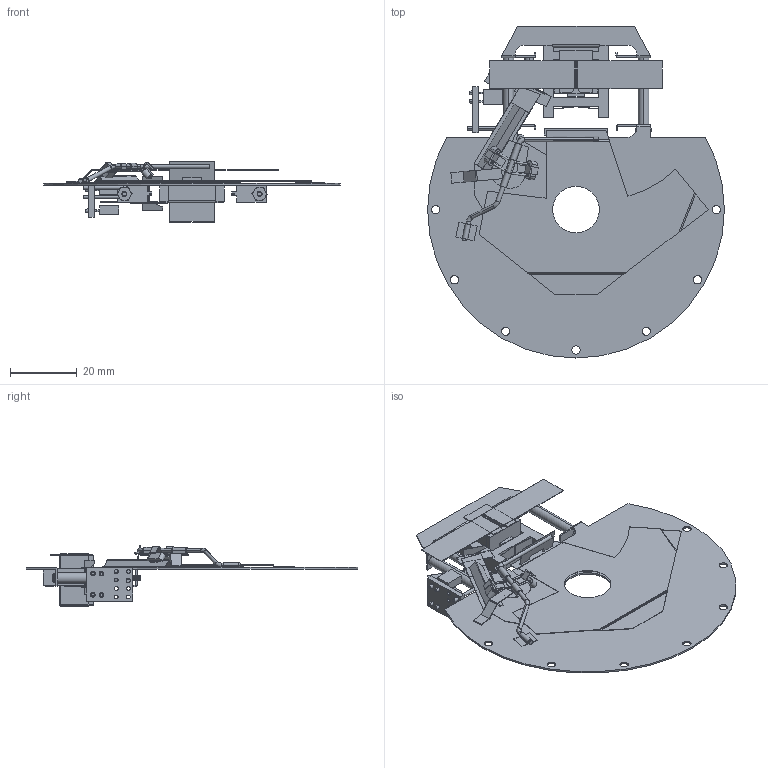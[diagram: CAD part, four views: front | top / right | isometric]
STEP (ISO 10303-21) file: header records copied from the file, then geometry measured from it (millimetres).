
FILE_DESCRIPTION (( 'STEP AP214' ), '1' );
FILE_NAME ('NO XRS14 3D Model Un-Housed.STEP', '2013-12-30T18:18:30', ( 'helen' ), ( 'Microsoft' ), 'SwSTEP 2.0', 'SolidWorks 2010', '' );
FILE_SCHEMA (( 'AUTOMOTIVE_DESIGN' ));
Length unit declared in the file: inch
Products named in the file (1): NO XRS14 3D Model Un-Housed
Bounding box: 88.9 x 99.47 x 18.24 mm (x, y, z)
Volume: 7176.5 mm3; surface area: 25757.7 mm2
Topology: 27 solids, 27 shells, 1884 faces, 4734 edges, 2916 vertices
Faces by surface type: cone 680, plane 603, cylinder 537, torus 48, bspline 12, sphere 4
Entity records: 81701 total; most frequent: DIRECTION 10615, CARTESIAN_POINT 10117, ORIENTED_EDGE 9460, EDGE_CURVE 4730, AXIS2_PLACEMENT_3D 4108, VERTEX_POINT 2916, VECTOR 2399, LINE 2399
